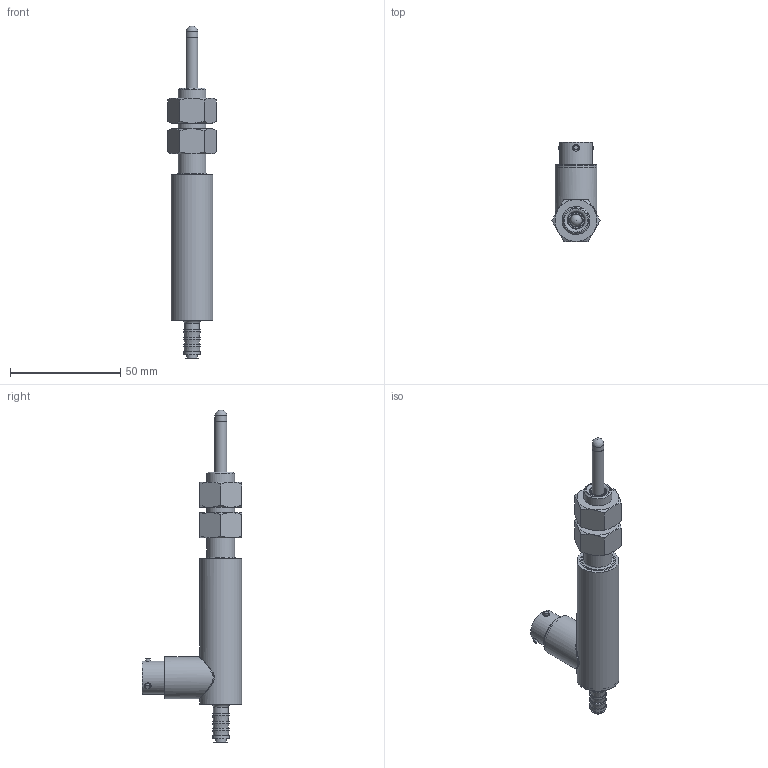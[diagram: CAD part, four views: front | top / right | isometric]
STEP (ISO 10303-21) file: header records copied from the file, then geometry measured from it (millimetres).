
FILE_DESCRIPTION(/* description */ (''),/* implementation_level */ '2;1');
FILE_NAME(/* name */ 'GHRA-750-A-125 ASS''Y.iam.stp',/* time_stamp */ '2023-11-09T15:21:10-05:00',/* author */ ('J. Nielson'),/* organization */ (''),/* preprocessor_version */ 'ST-DEVELOPER v20',/* originating_system */ 'Autodesk Inventor 2024',/* authorisation */ '');
FILE_SCHEMA (('AUTOMOTIVE_DESIGN { 1 0 10303 214 3 1 1 }'));
Length unit declared in the file: inch
Products named in the file (4): GHRA-750-A-125 ASSEMBLY; GHRA-750-A-125 HOUSING_Shrinkwrap_1; GHRA-750-A-050 SHAFT_SW; AS 2465 - 1/2  UNF
Assembly tree (4 placements, depth 2):
  GHRA-750-A-125 ASSEMBLY
    GHRA-750-A-125 HOUSING_Shrinkwrap_1
    GHRA-750-A-050 SHAFT_SW
    AS 2465 - 1/2  UNF  x2
Bounding box: 22 x 45.24 x 150.75 mm (x, y, z)
Volume: 18902.3 mm3; surface area: 21600.3 mm2
Topology: 17 solids, 17 shells, 223 faces, 442 edges, 284 vertices
Faces by surface type: plane 89, cylinder 74, cone 47, bspline 7, torus 5, sphere 1
Full cylindrical faces by diameter (mm): 0.762 x12, 1.905 x1, 2.032 x3, 2.845 x2, 3.048 x3, 4.762 x1, 4.826 x2, 5.334 x4, 5.397 x1, 6 x1, 6.731 x1, 7.493 x4, 7.671 x2, 7.874 x1, 11.328 x2, 12.7 x1, 13.208 x1, 14.986 x1, 15.748 x2, 16.51 x1, 17.018 x1, 17.069 x1, 17.78 x1, 18.034 x1, 18.415 x6, 19.05 x2
Entity records: 7486 total; most frequent: CARTESIAN_POINT 2866, DIRECTION 950, ORIENTED_EDGE 780, AXIS2_PLACEMENT_3D 407, EDGE_CURVE 390, EDGE_LOOP 259, VERTEX_POINT 255, CIRCLE 206
